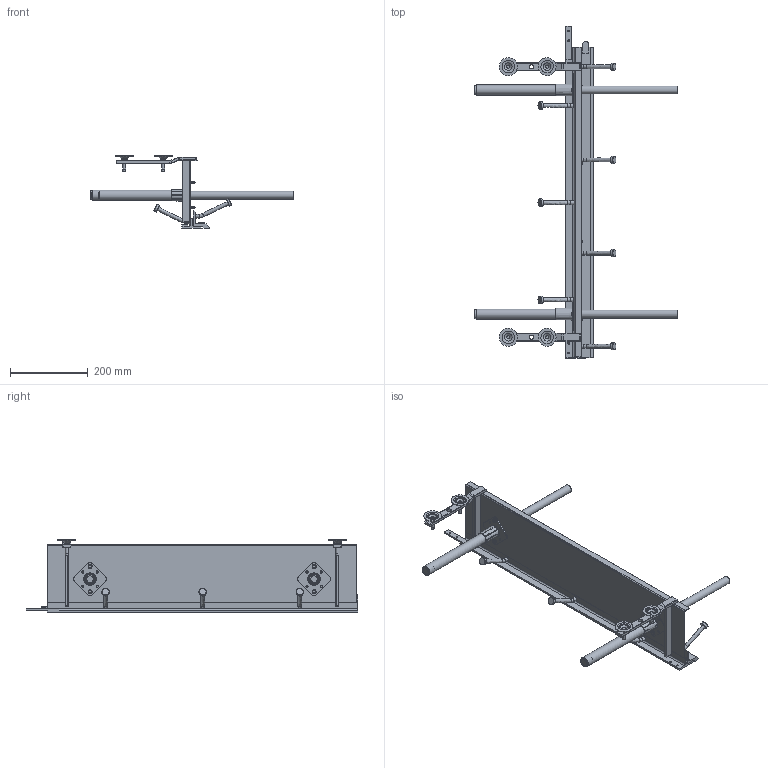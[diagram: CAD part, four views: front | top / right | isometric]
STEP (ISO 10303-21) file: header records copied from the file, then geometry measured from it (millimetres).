
FILE_DESCRIPTION(/* description */ (''),/* implementation_level */ '2;1');
FILE_NAME(/* name */ 'C:\Users\MW\Desktop\Guggenmoos\Herkules RFL\Herkules RFL\Herkules RFL.stp',/* time_stamp */ '2019-09-12T13:23:41+02:00',/* author */ ('MW'),/* organization */ (''),/* preprocessor_version */ 'ST-DEVELOPER v16.5',/* originating_system */ 'Autodesk Inventor 2017',/* authorisation */ '');
FILE_SCHEMA (('AUTOMOTIVE_DESIGN { 1 0 10303 214 3 1 1 }'));
Length unit declared in the file: millimetre
Products named in the file (14): Herkules ER; Unterbau Herkules ER; Blech Herkules ER; Winkel Herkules ER; Stopfen Herkules ER; Flansch Herkules ER; Stellfuß Herkules ER; Rohr Herkules ER; Stopfen Herkules ER_1; 334014_8x16cr3; Stange Herkules ER; Winkel Herkules RFL; Verankerung Herkules ER; 07175-105x12
Assembly tree (32 placements, depth 2):
  Herkules ER
    Unterbau Herkules ER  x2
    Blech Herkules ER
    Winkel Herkules ER
    Verankerung Herkules ER  x7
    Flansch Herkules ER  x2
    Rohr Herkules ER  x2
    Stopfen Herkules ER
    Stange Herkules ER  x2
    Stellfuß Herkules ER  x4
    334014_8x16cr3  x4
    Stopfen Herkules ER_1
    Winkel Herkules RFL
    07175-105x12  x4
Bounding box: 521.7 x 855 x 186.22 mm (x, y, z)
Volume: 1553992 mm3; surface area: 790486.1 mm2
Topology: 32 solids, 32 shells, 813 faces, 1828 edges, 1098 vertices
Faces by surface type: plane 377, cylinder 237, cone 88, torus 58, sphere 32, bspline 21
Full cylindrical faces by diameter (mm): 3 x4, 4.2 x4, 4.5 x8, 4.8 x4, 5.5 x12, 6.8 x4, 8 x4, 10.5 x4, 11 x2, 17.3 x2, 19 x7, 20.5 x2, 21.6 x2, 22 x4, 26 x2, 46 x4
Entity records: 10088 total; most frequent: CARTESIAN_POINT 1936, DIRECTION 1739, ORIENTED_EDGE 1430, EDGE_CURVE 715, AXIS2_PLACEMENT_3D 674, EDGE_LOOP 475, VERTEX_POINT 472, LINE 391
